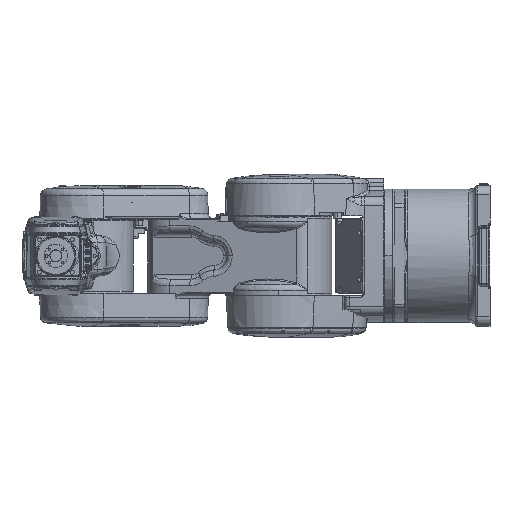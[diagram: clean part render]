
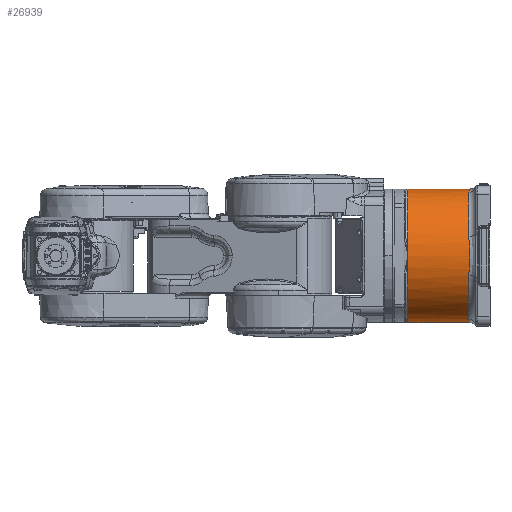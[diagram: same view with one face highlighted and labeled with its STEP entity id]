
A CAD part, left-side view. The second image highlights one B-rep face of the part: STEP entity #26939.
In plain terms, the highlighted cylindrical face has radius 142 mm (diameter 284 mm), a partial arc.
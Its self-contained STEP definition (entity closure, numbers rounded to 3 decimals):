
#284=CARTESIAN_POINT('',(91.565,45.,108.535));
#1017=CARTESIAN_POINT('',(91.565,45.,-108.535));
#1025=DIRECTION('',(0.,-1.,0.));
#1026=VECTOR('',#1025,130.);
#1027=CARTESIAN_POINT('',(91.565,175.,108.535));
#1028=LINE('',#1027,#1026);
#1029=CARTESIAN_POINT('',(0.,45.,0.));
#1030=DIRECTION('',(0.,-1.,0.));
#1031=DIRECTION('',(0.645,0.,0.764));
#1032=AXIS2_PLACEMENT_3D('',#1029,#1030,#1031);
#1034=CARTESIAN_POINT('',(41.928,45.,135.669));
#1035=CARTESIAN_POINT('',(40.215,45.,136.198));
#1036=CARTESIAN_POINT('',(36.775,44.932,137.19));
#1037=CARTESIAN_POINT('',(31.584,44.695,138.477));
#1038=CARTESIAN_POINT('',(26.366,44.383,139.565));
#1039=CARTESIAN_POINT('',(21.124,44.047,140.453));
#1040=CARTESIAN_POINT('',(15.863,43.73,141.144));
#1041=CARTESIAN_POINT('',(10.585,43.473,141.638));
#1042=CARTESIAN_POINT('',(5.296,43.305,141.934));
#1043=CARTESIAN_POINT('',(0.,43.247,142.033));
#1044=CARTESIAN_POINT('',(-5.296,43.305,141.934));
#1045=CARTESIAN_POINT('',(-10.585,43.473,141.638));
#1046=CARTESIAN_POINT('',(-15.863,43.73,141.144));
#1047=CARTESIAN_POINT('',(-21.124,44.047,140.453));
#1048=CARTESIAN_POINT('',(-26.366,44.383,139.565));
#1049=CARTESIAN_POINT('',(-31.584,44.695,138.477));
#1050=CARTESIAN_POINT('',(-36.775,44.932,137.19));
#1051=CARTESIAN_POINT('',(-40.215,45.,136.198));
#1052=CARTESIAN_POINT('',(-41.928,45.,135.669));
#1054=CARTESIAN_POINT('',(-135.669,45.,41.928));
#1055=CARTESIAN_POINT('',(-136.198,45.,40.215));
#1056=CARTESIAN_POINT('',(-137.19,44.932,36.775));
#1057=CARTESIAN_POINT('',(-138.477,44.695,31.584));
#1058=CARTESIAN_POINT('',(-139.565,44.383,26.366));
#1059=CARTESIAN_POINT('',(-140.453,44.047,21.124));
#1060=CARTESIAN_POINT('',(-141.144,43.73,15.863));
#1061=CARTESIAN_POINT('',(-141.638,43.473,10.585));
#1062=CARTESIAN_POINT('',(-141.934,43.305,5.296));
#1063=CARTESIAN_POINT('',(-142.,43.267,1.765));
#1064=CARTESIAN_POINT('',(-142.,43.267,0.));
#1066=CARTESIAN_POINT('',(-142.,43.267,0.));
#1067=CARTESIAN_POINT('',(-142.,43.267,
-1.765));
#1068=CARTESIAN_POINT('',(-141.934,43.305,
-5.296));
#1069=CARTESIAN_POINT('',(-141.638,43.473,
-10.585));
#1070=CARTESIAN_POINT('',(-141.144,43.73,
-15.863));
#1071=CARTESIAN_POINT('',(-140.453,44.047,
-21.124));
#1072=CARTESIAN_POINT('',(-139.565,44.383,
-26.366));
#1073=CARTESIAN_POINT('',(-138.477,44.695,
-31.584));
#1074=CARTESIAN_POINT('',(-137.19,44.932,
-36.775));
#1075=CARTESIAN_POINT('',(-136.198,45.,
-40.215));
#1076=CARTESIAN_POINT('',(-135.669,45.,
-41.928));
#1078=CARTESIAN_POINT('',(-41.928,45.,
-135.669));
#1079=CARTESIAN_POINT('',(-40.215,45.,
-136.198));
#1080=CARTESIAN_POINT('',(-36.775,44.932,
-137.19));
#1081=CARTESIAN_POINT('',(-31.584,44.695,
-138.477));
#1082=CARTESIAN_POINT('',(-26.366,44.383,
-139.565));
#1083=CARTESIAN_POINT('',(-21.124,44.047,
-140.453));
#1084=CARTESIAN_POINT('',(-15.863,43.73,
-141.144));
#1085=CARTESIAN_POINT('',(-10.585,43.473,
-141.638));
#1086=CARTESIAN_POINT('',(-5.296,43.305,
-141.934));
#1087=CARTESIAN_POINT('',(0.,43.247,
-142.033));
#1088=CARTESIAN_POINT('',(5.296,43.305,-141.934));
#1089=CARTESIAN_POINT('',(10.585,43.473,-141.638));
#1090=CARTESIAN_POINT('',(15.863,43.73,-141.144));
#1091=CARTESIAN_POINT('',(21.124,44.047,-140.453));
#1092=CARTESIAN_POINT('',(26.366,44.383,-139.565));
#1093=CARTESIAN_POINT('',(31.584,44.695,-138.477));
#1094=CARTESIAN_POINT('',(36.775,44.932,-137.19));
#1095=CARTESIAN_POINT('',(40.215,45.,-136.198));
#1096=CARTESIAN_POINT('',(41.928,45.,-135.669));
#1098=CARTESIAN_POINT('',(0.,45.,0.));
#1099=DIRECTION('',(0.,-1.,0.));
#1100=DIRECTION('',(0.295,0.,-0.955));
#1101=AXIS2_PLACEMENT_3D('',#1098,#1099,#1100);
#1731=CARTESIAN_POINT('',(0.,45.,0.));
#1732=DIRECTION('',(0.,1.,0.));
#1733=DIRECTION('',(-0.295,0.,-0.955));
#1734=AXIS2_PLACEMENT_3D('',#1731,#1732,#1733);
#1889=CARTESIAN_POINT('',(0.,45.,0.));
#1890=DIRECTION('',(0.,1.,0.));
#1891=DIRECTION('',(-0.955,0.,0.295));
#1892=AXIS2_PLACEMENT_3D('',#1889,#1890,#1891);
#3712=DIRECTION('',(0.,-1.,0.));
#3713=VECTOR('',#3712,130.);
#3714=CARTESIAN_POINT('',(91.565,175.,-108.535));
#3715=LINE('',#3714,#3713);
#4085=CARTESIAN_POINT('',(0.,175.,142.));
#4252=CARTESIAN_POINT('',(-142.,175.,0.));
#4320=CARTESIAN_POINT('',(0.,175.,-142.));
#4345=CARTESIAN_POINT('',(0.,175.,0.));
#4346=DIRECTION('',(0.,-1.,0.));
#4347=DIRECTION('',(-1.,0.,0.));
#4348=AXIS2_PLACEMENT_3D('',#4345,#4346,#4347);
#4508=CARTESIAN_POINT('',(0.,175.,0.));
#4509=DIRECTION('',(0.,-1.,0.));
#4510=DIRECTION('',(0.,0.,-1.));
#4511=AXIS2_PLACEMENT_3D('',#4508,#4509,#4510);
#4802=CARTESIAN_POINT('',(0.,175.,0.));
#4803=DIRECTION('',(0.,-1.,0.));
#4804=DIRECTION('',(0.,0.,1.));
#4805=AXIS2_PLACEMENT_3D('',#4802,#4803,#4804);
#4873=CARTESIAN_POINT('',(0.,175.,0.));
#4874=DIRECTION('',(0.,-1.,0.));
#4875=DIRECTION('',(0.645,0.,0.764));
#4876=AXIS2_PLACEMENT_3D('',#4873,#4874,#4875);
#22781=VERTEX_POINT('',#284);
#22782=CARTESIAN_POINT('',(91.565,175.,108.535));
#22783=VERTEX_POINT('',#22782);
#22945=VERTEX_POINT('',#1017);
#22948=CARTESIAN_POINT('',(41.928,45.,135.669));
#22949=VERTEX_POINT('',#22948);
#22950=VERTEX_POINT('',#1052);
#22951=VERTEX_POINT('',#1054);
#22952=VERTEX_POINT('',#1064);
#22953=VERTEX_POINT('',#1076);
#22954=VERTEX_POINT('',#1078);
#22955=VERTEX_POINT('',#1096);
#23316=CARTESIAN_POINT('',(91.565,175.,
-108.535));
#23317=VERTEX_POINT('',#23316);
#23393=VERTEX_POINT('',#4085);
#23412=VERTEX_POINT('',#4252);
#23416=VERTEX_POINT('',#4320);
#26907=CARTESIAN_POINT('',(0.,40.631,0.));
#26908=DIRECTION('',(0.,1.,0.));
#26909=DIRECTION('',(-1.,0.,0.));
#26910=AXIS2_PLACEMENT_3D('',#26907,#26908,#26909);
#26911=CYLINDRICAL_SURFACE('',#26910,142.);
#26912=ORIENTED_EDGE('',*,*,#25866,.T.);
#26913=ORIENTED_EDGE('',*,*,#25982,.T.);
#26915=ORIENTED_EDGE('',*,*,#26914,.T.);
#26917=ORIENTED_EDGE('',*,*,#26916,.F.);
#26919=ORIENTED_EDGE('',*,*,#26918,.T.);
#26921=ORIENTED_EDGE('',*,*,#26920,.T.);
#26923=ORIENTED_EDGE('',*,*,#26922,.F.);
#26925=ORIENTED_EDGE('',*,*,#26924,.T.);
#26926=ORIENTED_EDGE('',*,*,#26896,.T.);
#26928=ORIENTED_EDGE('',*,*,#26927,.F.);
#26930=ORIENTED_EDGE('',*,*,#26929,.F.);
#26932=ORIENTED_EDGE('',*,*,#26931,.F.);
#26934=ORIENTED_EDGE('',*,*,#26933,.F.);
#26936=ORIENTED_EDGE('',*,*,#26935,.F.);
#26937=EDGE_LOOP('',(#26912,#26913,#26915,#26917,#26919,#26921,#26923,#26925,
#26926,#26928,#26930,#26932,#26934,#26936));
#26938=FACE_OUTER_BOUND('',#26937,.F.);
#26939=ADVANCED_FACE('',(#26938),#26911,.T.);
#1033=CIRCLE('',#1032,142.);
#1053=B_SPLINE_CURVE_WITH_KNOTS('',3,(#1034,#1035,#1036,#1037,#1038,#1039,#1040,
#1041,#1042,#1043,#1044,#1045,#1046,#1047,#1048,#1049,#1050,#1051,#1052),
.UNSPECIFIED.,.F.,.F.,(4,1,1,1,1,1,1,1,1,1,1,1,1,1,1,1,4),(0.,0.063,0.125,
0.188,0.25,0.313,0.375,0.438,0.5,0.563,0.625,0.688,
0.75,0.813,0.875,0.938,1.),.UNSPECIFIED.);
#1065=B_SPLINE_CURVE_WITH_KNOTS('',3,(#1054,#1055,#1056,#1057,#1058,#1059,#1060,
#1061,#1062,#1063,#1064),.UNSPECIFIED.,.F.,.F.,(4,1,1,1,1,1,1,1,4),(0.,
0.125,0.25,0.375,0.5,0.625,0.75,0.875,1.),.UNSPECIFIED.);
#1077=B_SPLINE_CURVE_WITH_KNOTS('',3,(#1066,#1067,#1068,#1069,#1070,#1071,#1072,
#1073,#1074,#1075,#1076),.UNSPECIFIED.,.F.,.F.,(4,1,1,1,1,1,1,1,4),(0.,
0.125,0.25,0.375,0.5,0.625,0.75,0.875,1.),.UNSPECIFIED.);
#1097=B_SPLINE_CURVE_WITH_KNOTS('',3,(#1078,#1079,#1080,#1081,#1082,#1083,#1084,
#1085,#1086,#1087,#1088,#1089,#1090,#1091,#1092,#1093,#1094,#1095,#1096),
.UNSPECIFIED.,.F.,.F.,(4,1,1,1,1,1,1,1,1,1,1,1,1,1,1,1,4),(0.,0.063,0.125,
0.188,0.25,0.313,0.375,0.438,0.5,0.563,0.625,0.688,
0.75,0.813,0.875,0.938,1.),.UNSPECIFIED.);
#1102=CIRCLE('',#1101,142.);
#1735=CIRCLE('',#1734,142.);
#1893=CIRCLE('',#1892,142.);
#4349=CIRCLE('',#4348,142.);
#4512=CIRCLE('',#4511,142.);
#4806=CIRCLE('',#4805,142.);
#4877=CIRCLE('',#4876,142.);
#25866=EDGE_CURVE('',#22783,#22781,#1028,.T.);
#25982=EDGE_CURVE('',#22781,#22949,#1033,.T.);
#26896=EDGE_CURVE('',#22955,#22945,#1102,.T.);
#26914=EDGE_CURVE('',#22949,#22950,#1053,.T.);
#26916=EDGE_CURVE('',#22951,#22950,#1893,.T.);
#26918=EDGE_CURVE('',#22951,#22952,#1065,.T.);
#26920=EDGE_CURVE('',#22952,#22953,#1077,.T.);
#26922=EDGE_CURVE('',#22954,#22953,#1735,.T.);
#26924=EDGE_CURVE('',#22954,#22955,#1097,.T.);
#26927=EDGE_CURVE('',#23317,#22945,#3715,.T.);
#26929=EDGE_CURVE('',#23416,#23317,#4512,.T.);
#26931=EDGE_CURVE('',#23412,#23416,#4349,.T.);
#26933=EDGE_CURVE('',#23393,#23412,#4806,.T.);
#26935=EDGE_CURVE('',#22783,#23393,#4877,.T.);
